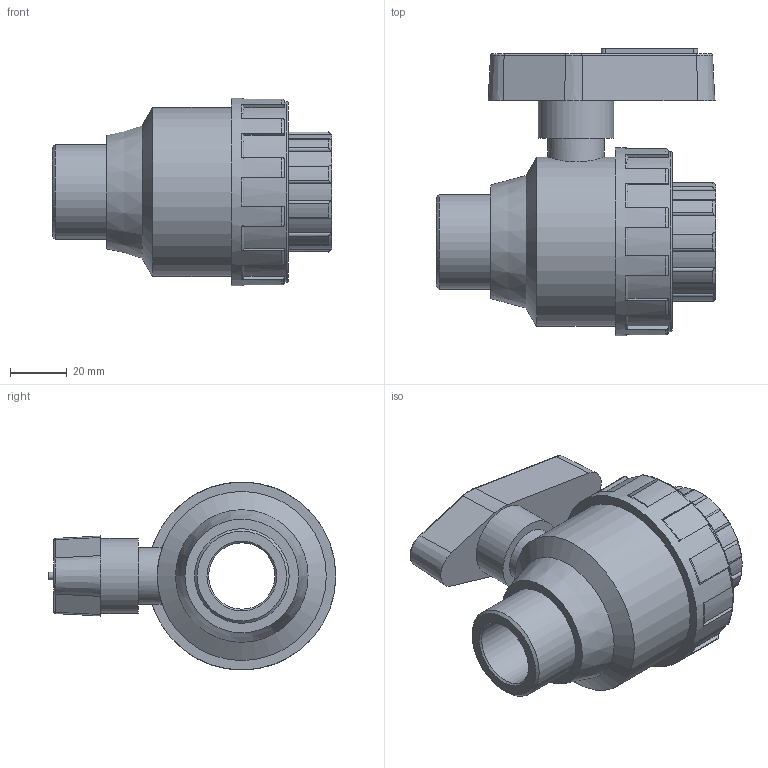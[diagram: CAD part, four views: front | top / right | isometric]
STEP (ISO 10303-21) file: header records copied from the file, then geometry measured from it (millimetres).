
FILE_DESCRIPTION(/* description */ ('PLASSON ONE NUT VALVE MALE-FEMALE ADAPTOR 1" PVC'),/* implementation_level */ '2;1');
FILE_NAME(/* name */ 'C:\Dropbox\KIMPROJECTS-Inventor\99-16-3568-Processing\PVC Catalog 2017\113610\11361010.ipt.stp',/* time_stamp */ '2017-12-07T16:12:21+02:00',/* author */ ('KIM'),/* organization */ (''),/* preprocessor_version */ 'ST-DEVELOPER v15.6',/* originating_system */ 'Autodesk Inventor 2015',/* authorisation */ '');
FILE_SCHEMA (('AUTOMOTIVE_DESIGN { 1 0 10303 214 3 1 1 }'));
Length unit declared in the file: millimetre
Products named in the file (1): 11361010
Bounding box: 98 x 100.98 x 66 mm (x, y, z)
Volume: 191226.9 mm3; surface area: 35799.7 mm2
Topology: 1 solids, 1 shells, 168 faces, 442 edges, 284 vertices
Faces by surface type: plane 65, cylinder 55, torus 29, cone 19
Full cylindrical faces by diameter (mm): 19.8 x1, 23.274 x1, 24.233 x1, 26.4 x1, 30.291 x1, 33.249 x1, 59.4 x1, 63.36 x1, 66 x1
Entity records: 5658 total; most frequent: CARTESIAN_POINT 1552, DIRECTION 876, ORIENTED_EDGE 840, EDGE_CURVE 420, AXIS2_PLACEMENT_3D 356, VERTEX_POINT 278, EDGE_LOOP 194, CIRCLE 187
